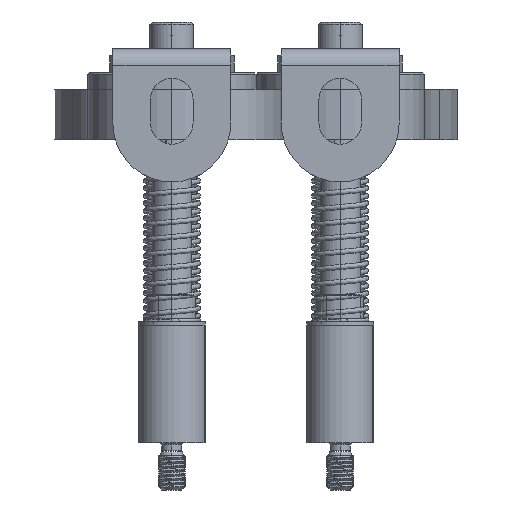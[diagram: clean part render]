
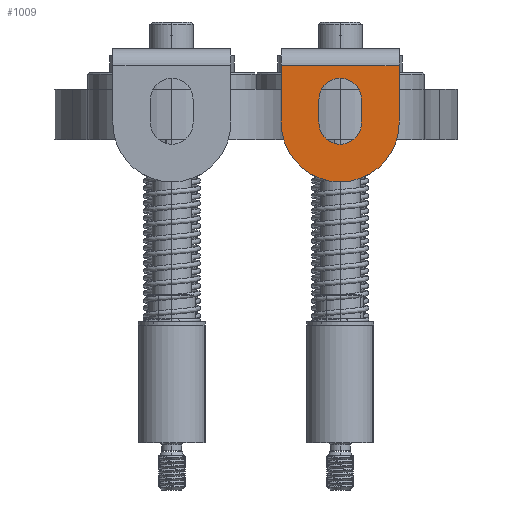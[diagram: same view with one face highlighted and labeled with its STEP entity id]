
A CAD part, left-side view. The second image highlights one B-rep face of the part: STEP entity #1009.
In plain terms, the highlighted planar face has unit normal (-1, 0, 0).
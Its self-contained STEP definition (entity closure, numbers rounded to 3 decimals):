
#1009 = ADVANCED_FACE ( 'NONE', ( #7541, #15459 ), #23600, .T. ) ;
#1322 = DIRECTION ( 'NONE',  ( -1., 0., 0. ) ) ;
#2036 = CARTESIAN_POINT ( 'NONE',  ( -401.5, -31.3, 12. ) ) ;
#2289 = DIRECTION ( 'NONE',  ( 0., 0., -1. ) ) ;
#2539 = ORIENTED_EDGE ( 'NONE', *, *, #18008, .F. ) ;
#3274 = ORIENTED_EDGE ( 'NONE', *, *, #16539, .F. ) ;
#4289 = VERTEX_POINT ( 'NONE', #11507 ) ;
#4834 = CARTESIAN_POINT ( 'NONE',  ( -401.5, -25., 12. ) ) ;
#5022 = CARTESIAN_POINT ( 'NONE',  ( -401.5, -18.7, 5. ) ) ;
#5214 = ORIENTED_EDGE ( 'NONE', *, *, #22973, .T. ) ;
#6239 = ORIENTED_EDGE ( 'NONE', *, *, #41904, .T. ) ;
#7415 = DIRECTION ( 'NONE',  ( 0., 0., 1. ) ) ;
#7538 = LINE ( 'NONE', #10984, #28943 ) ;
#7541 = FACE_BOUND ( 'NONE', #11657, .T. ) ;
#7686 = CIRCLE ( 'NONE', #37104, 17.5 ) ;
#7854 = LINE ( 'NONE', #43898, #43858 ) ;
#8246 = AXIS2_PLACEMENT_3D ( 'NONE', #43339, #11756, #24117 ) ;
#9059 = VERTEX_POINT ( 'NONE', #2036 ) ;
#10661 = LINE ( 'NONE', #34593, #22423 ) ;
#10984 = CARTESIAN_POINT ( 'NONE',  ( -401.5, -25., 22. ) ) ;
#11096 = CIRCLE ( 'NONE', #29566, 6.3 ) ;
#11507 = CARTESIAN_POINT ( 'NONE',  ( -401.5, -25., -12.5 ) ) ;
#11657 = EDGE_LOOP ( 'NONE', ( #2539, #3274, #20487, #17579, #19911 ) ) ;
#11756 = DIRECTION ( 'NONE',  ( -1., 0., 0. ) ) ;
#12240 = EDGE_CURVE ( 'NONE', #35511, #43836, #37225, .T. ) ;
#13103 = ORIENTED_EDGE ( 'NONE', *, *, #35792, .T. ) ;
#15372 = CIRCLE ( 'NONE', #31328, 6.3 ) ;
#15459 = FACE_OUTER_BOUND ( 'NONE', #21878, .T. ) ;
#15766 = DIRECTION ( 'NONE',  ( 0., 0., 1. ) ) ;
#16539 = EDGE_CURVE ( 'NONE', #51177, #9059, #7854, .T. ) ;
#17195 = DIRECTION ( 'NONE',  ( 0., 0., 1. ) ) ;
#17579 = ORIENTED_EDGE ( 'NONE', *, *, #21944, .F. ) ;
#17901 = DIRECTION ( 'NONE',  ( 0., 0., -1. ) ) ;
#18008 = EDGE_CURVE ( 'NONE', #9059, #35511, #15372, .T. ) ;
#19078 = CARTESIAN_POINT ( 'NONE',  ( -401.5, -7.5, 22. ) ) ;
#19469 = VERTEX_POINT ( 'NONE', #40220 ) ;
#19911 = ORIENTED_EDGE ( 'NONE', *, *, #12240, .F. ) ;
#20358 = DIRECTION ( 'NONE',  ( -1., 0., 0. ) ) ;
#20359 = EDGE_CURVE ( 'NONE', #28845, #4289, #7686, .T. ) ;
#20487 = ORIENTED_EDGE ( 'NONE', *, *, #44300, .F. ) ;
#21878 = EDGE_LOOP ( 'NONE', ( #13103, #31087, #5214, #39132, #6239 ) ) ;
#21944 = EDGE_CURVE ( 'NONE', #43836, #33450, #41304, .T. ) ;
#22298 = CARTESIAN_POINT ( 'NONE',  ( -401.5, -42.5, 5. ) ) ;
#22423 = VECTOR ( 'NONE', #23025, 1000. ) ;
#22973 = EDGE_CURVE ( 'NONE', #28007, #28845, #34145, .T. ) ;
#23025 = DIRECTION ( 'NONE',  ( 0., 0., 1. ) ) ;
#23223 = CARTESIAN_POINT ( 'NONE',  ( -401.5, -18.7, 12. ) ) ;
#23600 = PLANE ( 'NONE',  #8246 ) ;
#24117 = DIRECTION ( 'NONE',  ( 0., 0., 1. ) ) ;
#26267 = VECTOR ( 'NONE', #17901, 1000. ) ;
#27651 = DIRECTION ( 'NONE',  ( 0., 0., 1. ) ) ;
#28007 = VERTEX_POINT ( 'NONE', #19078 ) ;
#28733 = VECTOR ( 'NONE', #2289, 1000. ) ;
#28845 = VERTEX_POINT ( 'NONE', #37456 ) ;
#28943 = VECTOR ( 'NONE', #51747, 1000. ) ;
#29566 = AXIS2_PLACEMENT_3D ( 'NONE', #37390, #1322, #48948 ) ;
#30800 = EDGE_CURVE ( 'NONE', #19469, #28007, #7538, .T. ) ;
#31087 = ORIENTED_EDGE ( 'NONE', *, *, #30800, .T. ) ;
#31328 = AXIS2_PLACEMENT_3D ( 'NONE', #40344, #20358, #17195 ) ;
#31599 = CARTESIAN_POINT ( 'NONE',  ( -401.5, -25., 5. ) ) ;
#32610 = DIRECTION ( 'NONE',  ( -1., 0., 0. ) ) ;
#33450 = VERTEX_POINT ( 'NONE', #5022 ) ;
#33756 = DIRECTION ( 'NONE',  ( 0., 0., 1. ) ) ;
#34145 = LINE ( 'NONE', #49922, #28733 ) ;
#34593 = CARTESIAN_POINT ( 'NONE',  ( -401.5, -42.5, 25. ) ) ;
#35511 = VERTEX_POINT ( 'NONE', #41706 ) ;
#35576 = CARTESIAN_POINT ( 'NONE',  ( -401.5, -25., 5. ) ) ;
#35792 = EDGE_CURVE ( 'NONE', #46171, #19469, #10661, .T. ) ;
#37104 = AXIS2_PLACEMENT_3D ( 'NONE', #35576, #39782, #7415 ) ;
#37225 = CIRCLE ( 'NONE', #43935, 6.3 ) ;
#37390 = CARTESIAN_POINT ( 'NONE',  ( -401.5, -25., 5. ) ) ;
#37456 = CARTESIAN_POINT ( 'NONE',  ( -401.5, -7.5, 5. ) ) ;
#37729 = DIRECTION ( 'NONE',  ( -1., 0., 0. ) ) ;
#38775 = CARTESIAN_POINT ( 'NONE',  ( -401.5, -31.3, 5. ) ) ;
#39132 = ORIENTED_EDGE ( 'NONE', *, *, #20359, .T. ) ;
#39782 = DIRECTION ( 'NONE',  ( -1., 0., 0. ) ) ;
#40220 = CARTESIAN_POINT ( 'NONE',  ( -401.5, -42.5, 22. ) ) ;
#40344 = CARTESIAN_POINT ( 'NONE',  ( -401.5, -25., 12. ) ) ;
#41304 = LINE ( 'NONE', #49207, #26267 ) ;
#41706 = CARTESIAN_POINT ( 'NONE',  ( -401.5, -25., 18.3 ) ) ;
#41904 = EDGE_CURVE ( 'NONE', #4289, #46171, #47855, .T. ) ;
#43339 = CARTESIAN_POINT ( 'NONE',  ( -401.5, -25., 5. ) ) ;
#43836 = VERTEX_POINT ( 'NONE', #23223 ) ;
#43858 = VECTOR ( 'NONE', #15766, 1000. ) ;
#43898 = CARTESIAN_POINT ( 'NONE',  ( -401.5, -31.3, 12. ) ) ;
#43935 = AXIS2_PLACEMENT_3D ( 'NONE', #4834, #37729, #33756 ) ;
#44300 = EDGE_CURVE ( 'NONE', #33450, #51177, #11096, .T. ) ;
#44501 = AXIS2_PLACEMENT_3D ( 'NONE', #31599, #32610, #27651 ) ;
#46171 = VERTEX_POINT ( 'NONE', #22298 ) ;
#47855 = CIRCLE ( 'NONE', #44501, 17.5 ) ;
#48948 = DIRECTION ( 'NONE',  ( 0., 0., 1. ) ) ;
#49207 = CARTESIAN_POINT ( 'NONE',  ( -401.5, -18.7, 12. ) ) ;
#49922 = CARTESIAN_POINT ( 'NONE',  ( -401.5, -7.5, 5. ) ) ;
#51177 = VERTEX_POINT ( 'NONE', #38775 ) ;
#51747 = DIRECTION ( 'NONE',  ( 0., 1., 0. ) ) ;
